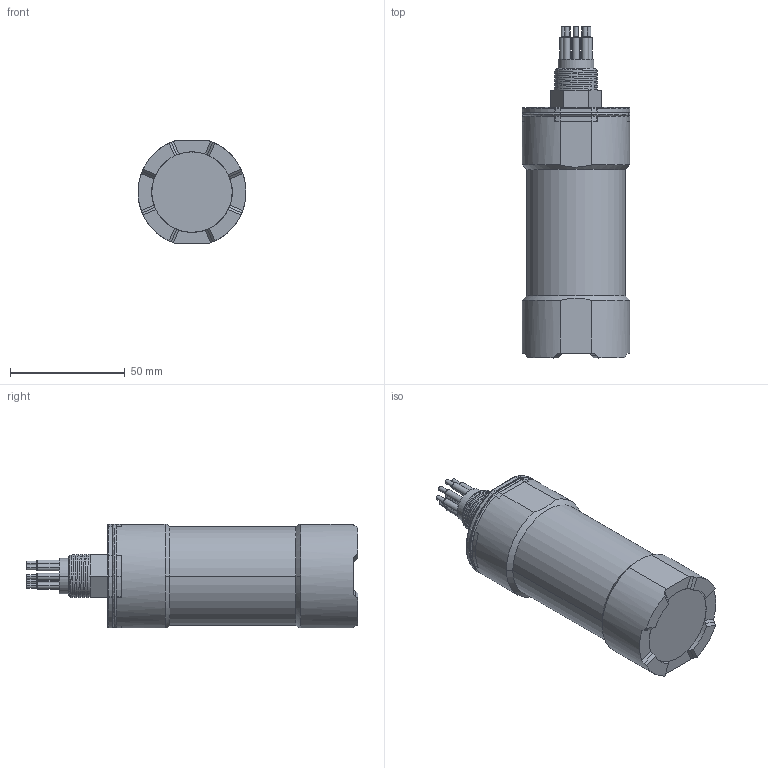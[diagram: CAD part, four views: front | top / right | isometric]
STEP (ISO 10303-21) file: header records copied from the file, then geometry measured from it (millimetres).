
FILE_DESCRIPTION (( 'STEP AP214' ), '1' );
FILE_NAME ('ISA500.STEP', '2016-05-28T13:51:14', ( '' ), ( '' ), 'SwSTEP 2.0', 'SolidWorks 2016', '' );
FILE_SCHEMA (( 'AUTOMOTIVE_DESIGN' ));
Length unit declared in the file: millimetre
Products named in the file (1): ISA500
Bounding box: 47 x 144.5 x 45.09 mm (x, y, z)
Surface area: 28062.8 mm2 (no closed solid volume)
Topology: 0 solids, 6 shells, 316 faces, 1048 edges, 735 vertices
Faces by surface type: cylinder 118, plane 113, cone 38, torus 25, bspline 22
Entity records: 16980 total; most frequent: CARTESIAN_POINT 4777, ORIENTED_EDGE 1770, DIRECTION 1754, EDGE_CURVE 1048, VERTEX_POINT 735, AXIS2_PLACEMENT_3D 651, LINE 452, VECTOR 452
